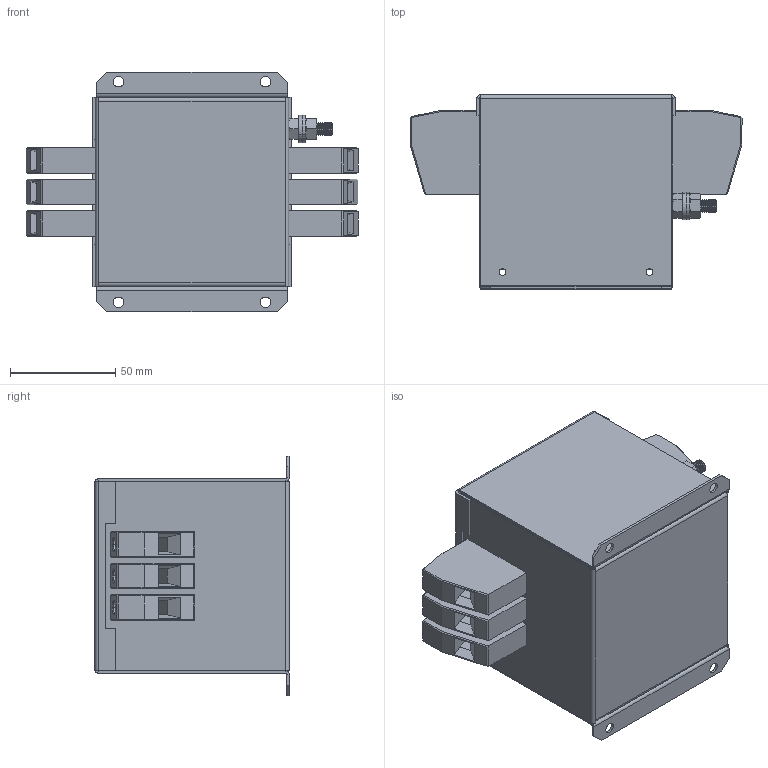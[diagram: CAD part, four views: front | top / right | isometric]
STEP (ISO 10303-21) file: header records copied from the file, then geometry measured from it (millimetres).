
FILE_DESCRIPTION (( 'STEP AP203' ), '1' );
FILE_NAME ('NF-DAR-50-3.STEP', '2018-09-21T10:37:44', ( '' ), ( '' ), 'SwSTEP 2.0', 'SolidWorks 2017', '' );
FILE_SCHEMA (( 'CONFIG_CONTROL_DESIGN' ));
Length unit declared in the file: millimetre
Products named in the file (8): hex nut style 1_am_B18.2.4.1M - Hex nut, Style 1,  M6 x 1 --D-N; hex screw_am_B18.6.7M - M6 x 1.0 x 16 Indented HHMS --16S; flat washer narrow_am_B18.22M - Plain washer, 6 mm, narrow; HDFK-16; NF-DAR-50-3; Box 1; M6x16 Earth post; Cover 1
Assembly tree (13 placements, depth 3):
  NF-DAR-50-3
    Box 1
    Cover 1
    HDFK-16  x6
    M6x16 Earth post
      flat washer narrow_am_B18.22M - Plain washer, 6 mm, narrow  x2
      hex nut style 1_am_B18.2.4.1M - Hex nut, Style 1,  M6 x 1 --D-N
      hex screw_am_B18.6.7M - M6 x 1.0 x 16 Indented HHMS --16S
Bounding box: 158.01 x 92.4 x 114 mm (x, y, z)
Volume: 162768.4 mm3; surface area: 170216.3 mm2
Topology: 12 solids, 12 shells, 794 faces, 1850 edges, 1118 vertices
Faces by surface type: plane 538, cylinder 148, cone 108
Entity records: 13622 total; most frequent: CARTESIAN_POINT 2293, DIRECTION 2254, ORIENTED_EDGE 2076, EDGE_CURVE 1038, AXIS2_PLACEMENT_3D 807, VECTOR 640, LINE 640, VERTEX_POINT 630
